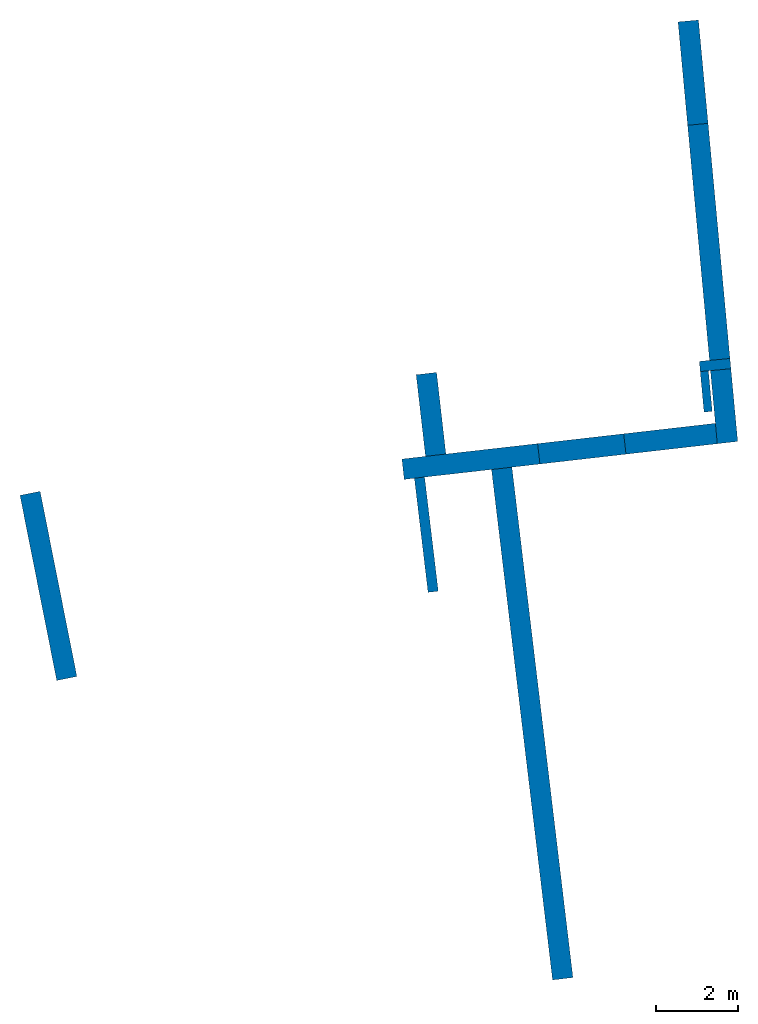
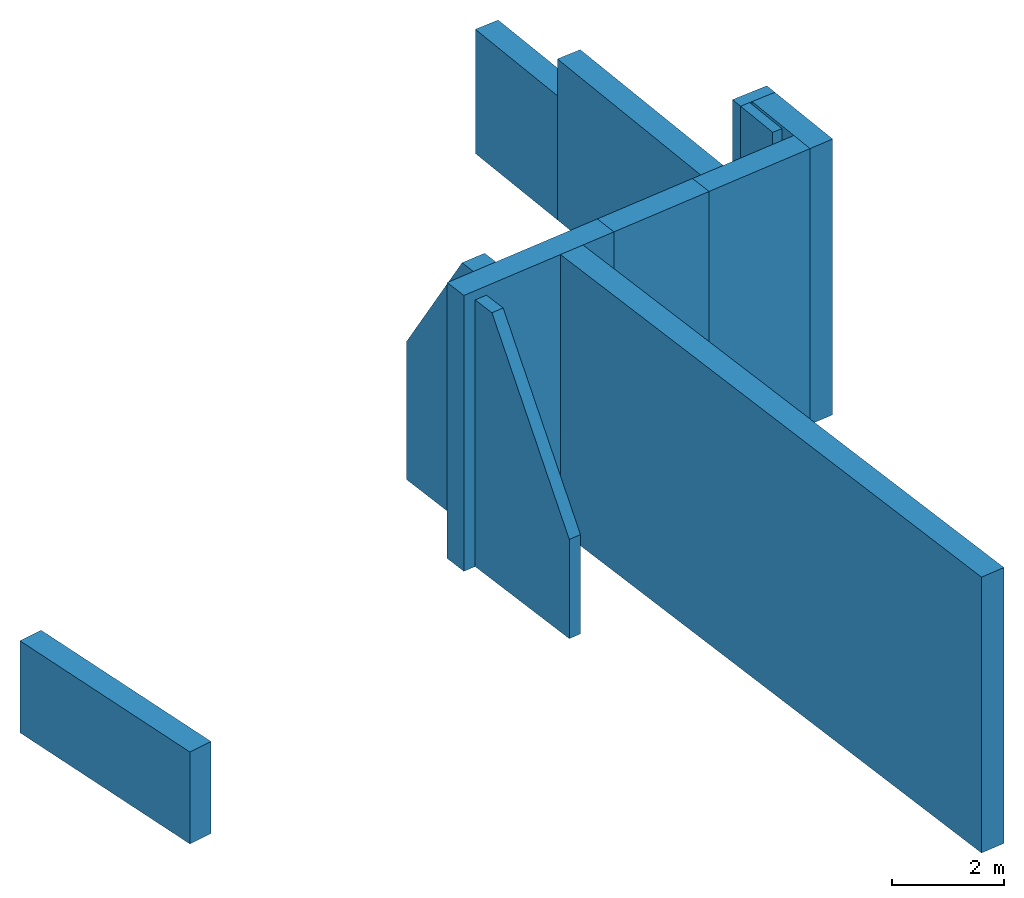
# One storey: 11 walls, 1 column, 1 opening.
"""IFC2X3 building model written with IfcOpenShell, lengths in centimetres."""

from ifc_helpers import new_model, entity, si_unit, converted_unit, derived_unit, direction, frame, frame_2d, origin, place, context, subcontext, project, spatial, polyline, rectangle, outline, extrude, clip, halfspace, faceted_brep, source, transform, mapped, material, layer, layer_set, layer_usage, type_object, type_shapes, element, save


model = new_model("IFC2X3")

# Units and contexts
model_context = context("Model", 3, precision=0.001, world=origin(), true_north=direction((0.0, 1.0)))
body_context = subcontext(model_context, "Body", "Model", "MODEL_VIEW")
ifc_project = project(units=[si_unit("LENGTHUNIT", "METRE", prefix="CENTI"), si_unit("AREAUNIT", "SQUARE_METRE"), si_unit("VOLUMEUNIT", "CUBIC_METRE"), converted_unit("PLANEANGLEUNIT", "DEGREE", entity("IfcPlaneAngleMeasure", 0.017453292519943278), si_unit("PLANEANGLEUNIT", "RADIAN"), dimensions=[0, 0, 0, 0, 0, 0, 0]), derived_unit("THERMALTRANSMITTANCEUNIT", [(si_unit("MASSUNIT", "GRAM", prefix="KILO"), 1), (si_unit("THERMODYNAMICTEMPERATUREUNIT", "KELVIN"), -1), (si_unit("TIMEUNIT", "SECOND"), -3)])], contexts=[model_context])

# Site, building, storey
site_placement = place(None, frame((0.0, 0.0, 30720.0)))
site = spatial("IfcSite", under=ifc_project, at=site_placement, Name="Default", CompositionType="ELEMENT")
building_placement = place(site_placement, origin())
building = spatial("IfcBuilding", under=site, at=building_placement, CompositionType="ELEMENT")
storey_placement = place(building_placement, frame((0.0, 0.0, -300.0)))
storey = spatial("IfcBuildingStorey", under=building, at=storey_placement, Name="R-1", CompositionType="ELEMENT", Elevation=-299.99999999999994)

# Column
ifc_material_1 = material(Name="00-Béton")
column_type = type_object("IfcColumnType", Name="LBTS-25-poteau_rectangulaire-ESS-OLL:Pt.001", PredefinedType="COLUMN", material=ifc_material_1)
shared_shape = source(origin(), body_context, "Body", "SweptSolid", [
    extrude(rectangle(XDim=24.999999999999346, YDim=75.00000000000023, at=frame_2d((-1.78571428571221, 6.068281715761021), x_axis=(1.0, 0.0))), frame((28735.879390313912, -13261.973703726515, -300.0), z_axis=(0.0, 0.0, 1.0), x_axis=(0.09266489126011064, -0.9956973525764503, 0.0)), (0.0, 0.0, 1.0), 599.9999999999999),
])
type_shapes(column_type, [shared_shape])
column_placement = place(storey_placement, frame((0.0, 0.0, 300.0)))
element("IfcColumn", 1, at=column_placement, inside=storey, type_object=column_type, material=ifc_material_1, Name="LBTS-25-poteau_rectangulaire-ESS-OLL:Pt.001", context=body_context, shape_type="MappedRepresentation", body=[
    mapped(shared_shape, transform((0.0, 0.0, 0.0), scale=1.0)),
])

# Walls
ifc_layer_1 = layer(ifc_material_1, 20.0)
ifc_layer_set_1 = layer_set([ifc_layer_1], Name="Mur de base:Voile B.A. 20")
ifc_layer_usage_1 = layer_usage(ifc_layer_set_1, "AXIS2", "NEGATIVE", 10.0)
wall_type_1 = type_object("IfcWallType", Name="Mur de base:Voile B.A. 20", PredefinedType="STANDARD", material=ifc_layer_set_1)
wall_1_placement = place(storey_placement, frame((28724.72140419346, -13373.361532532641, 0.0), z_axis=(0.0, 0.0, 1.0), x_axis=(-0.0926648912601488, 0.9956973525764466, 0.0)))
element("IfcWallStandardCase", 2, at=wall_1_placement, inside=storey, type_object=wall_type_1, material=ifc_layer_usage_1, Name="Mur de base:Voile B.A. 20", context=body_context, shape_type="SweptSolid", body=[
    extrude(rectangle(XDim=99.16032696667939, YDim=20.00000000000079, at=frame_2d((49.580163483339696, -1.0658141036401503e-14), x_axis=(-1.0, 0.0))), origin(), (0.0, 0.0, 1.0), 600.0),
])
ifc_material_2 = material(Name="04-Existant")
ifc_layer_2 = layer(ifc_material_2, 50.0)
ifc_layer_set_2 = layer_set([ifc_layer_2], Name="Mur de base:Existant 50")
ifc_layer_usage_2 = layer_usage(ifc_layer_set_2, "AXIS2", "NEGATIVE", 25.0)
wall_type_2 = type_object("IfcWallType", Name="Mur de base:Existant 50", PredefinedType="STANDARD", material=ifc_layer_set_2)
wall_2_placement = place(storey_placement, frame((28676.34467025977, -12421.768221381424, 0.0), z_axis=(0.0, 0.0, 1.0), x_axis=(0.0926652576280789, -0.9956973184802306, 0.0)))
element("IfcWallStandardCase", 3, at=wall_2_placement, inside=storey, type_object=wall_type_2, material=ifc_layer_usage_2, Name="Mur de base:Existant 50", context=body_context, shape_type="SweptSolid", body=[
    extrude(rectangle(XDim=252.82499744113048, YDim=50.00000000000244, at=frame_2d((126.41249872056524, -7.229772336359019e-13), x_axis=(-1.0, 0.0))), origin(), (0.0, 0.0, 1.0), 269.99999999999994),
])
ifc_layer_usage_3 = layer_usage(ifc_layer_set_2, "AXIS2", "NEGATIVE", 25.0)
wall_3_placement = place(storey_placement, frame((28755.373249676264, -13270.93807852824, 0.0), z_axis=(0.0, 0.0, 1.0), x_axis=(0.09295048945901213, -0.9956707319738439, 0.0)))
element("IfcWallStandardCase", 4, at=wall_3_placement, inside=storey, type_object=wall_type_2, material=ifc_layer_usage_3, Name="Mur de base:Existant 50", context=body_context, shape_type="SweptSolid", body=[
    extrude(outline(polyline([(178.83553113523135, -25.0), (177.7984778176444, 25.0), (0.0, 25.0), (0.0, -25.0), (128.82477749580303, -25.0), (178.83553113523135, -25.0)])), origin(), (0.0, 0.0, 1.0), 600.0),
])
ifc_layer_usage_4 = layer_usage(ifc_layer_set_2, "AXIS2", "NEGATIVE", 25.0)
wall_4_placement = place(storey_placement, frame((28745.295240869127, -13426.367130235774, 0.0), z_axis=(0.0, 0.0, 1.0), x_axis=(-0.9935291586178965, -0.11357733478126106, 0.0)))
element("IfcWallStandardCase", 5, at=wall_4_placement, inside=storey, type_object=wall_type_2, material=ifc_layer_usage_4, Name="Mur de base:Existant 50", context=body_context, shape_type="SweptSolid", body=[
    extrude(outline(polyline([(224.80617165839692, -25.0), (224.80617165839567, 25.0), (1.0370533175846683, 25.0), (0.0, -25.0), (224.80617165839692, -25.0)])), origin(), (0.0, 0.0, 1.0), 600.0),
])
ifc_layer_usage_5 = layer_usage(ifc_layer_set_2, "AXIS2", "NEGATIVE", 25.0)
wall_5_placement = place(storey_placement, frame((28312.349523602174, -13475.860204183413, 0.0), z_axis=(0.0, 0.0, 1.0), x_axis=(-0.9936242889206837, -0.11274206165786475, 0.0)))
element("IfcWallStandardCase", 6, at=wall_5_placement, inside=storey, type_object=wall_type_2, material=ifc_layer_usage_5, Name="Mur de base:Existant 50", context=body_context, shape_type="SweptSolid", body=[
    extrude(rectangle(XDim=332.5919961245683, YDim=49.99999999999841, at=frame_2d((166.29599806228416, -5.5067062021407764e-14), x_axis=(-1.0, 0.0))), origin(), (0.0, 0.0, 1.0), 600.0),
])
ifc_layer_usage_6 = layer_usage(ifc_layer_set_2, "AXIS2", "POSITIVE", -25.0)
wall_6_placement = place(storey_placement, frame((28312.34952259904, -13475.860195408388, 0.0), z_axis=(0.0, 0.0, 1.0), x_axis=(0.9935291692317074, 0.11357724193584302, 0.0)))
element("IfcWallStandardCase", 7, at=wall_6_placement, inside=storey, type_object=wall_type_2, material=ifc_layer_usage_6, Name="Mur de base:Existant 50", context=body_context, shape_type="SweptSolid", body=[
    extrude(rectangle(XDim=210.95931398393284, YDim=50.00000000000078, at=frame_2d((105.47965699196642, 1.687538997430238e-13), x_axis=(-1.0, 0.0))), origin(), (0.0, 0.0, 1.0), 600.0),
])
ifc_layer_usage_7 = layer_usage(ifc_layer_set_2, "AXIS2", "NEGATIVE", 25.0)
wall_7_placement = place(storey_placement, frame((28222.135913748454, -13511.104833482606, 0.0), z_axis=(0.0, 0.0, 1.0), x_axis=(0.11873945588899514, -0.9929254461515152, 0.0)))
element("IfcWallStandardCase", 8, at=wall_7_placement, inside=storey, type_object=wall_type_2, material=ifc_layer_usage_7, Name="Mur de base:Existant 50", context=body_context, shape_type="SweptSolid", body=[
    extrude(outline(polyline([(1251.896743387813, -25.0), (1251.8967433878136, 25.0), (0.3019027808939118, 25.0), (0.0, -25.0), (1251.896743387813, -25.0)])), origin(), (0.0, 0.0, 1.0), 600.0),
])
ifc_layer_usage_8 = layer_usage(ifc_layer_set_2, "AXIS2", "NEGATIVE", 25.0)
wall_8_placement = place(storey_placement, frame((27163.125310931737, -14022.846650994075, 0.0), z_axis=(0.0, 0.0, 1.0), x_axis=(-0.1946979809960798, 0.9808632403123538, 0.0)))
element("IfcWallStandardCase", 9, at=wall_8_placement, inside=storey, type_object=wall_type_2, material=ifc_layer_usage_8, Name="Mur de base:Existant 50", context=body_context, shape_type="SweptSolid", body=[
    extrude(rectangle(XDim=459.5437029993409, YDim=50.000000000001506, at=frame_2d((229.77185149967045, 9.059419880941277e-13), x_axis=(-1.0, 0.0))), origin(), (0.0, 0.0, 1.0), 199.99999999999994),
])

# Wall, opening
ifc_layer_usage_9 = layer_usage(ifc_layer_set_2, "AXIS2", "NEGATIVE", 25.0)
wall_9_placement = place(storey_placement, frame((28699.77276378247, -12673.505393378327, 0.0), z_axis=(0.0, 0.0, 1.0), x_axis=(0.0926652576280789, -0.9956973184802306, 0.0)))
wall_9 = element("IfcWallStandardCase", 10, at=wall_9_placement, inside=storey, type_object=wall_type_2, material=ifc_layer_usage_9, Name="Mur de base:Existant 50", context=body_context, shape_type="SweptSolid", body=[
    extrude(rectangle(XDim=600.0143559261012, YDim=50.00000000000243, at=frame_2d((300.0071779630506, 5.613287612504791e-13), x_axis=(-1.0, 0.0))), origin(), (0.0, 0.0, 1.0), 349.99999999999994),
])
opening_placement = place(storey_placement, frame((28699.77276378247, -12673.505393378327, 0.0), z_axis=(0.0, 0.0, 1.0), x_axis=(0.0926652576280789, -0.9956973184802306, 0.0)))
element("IfcOpeningElement", 11, at=opening_placement, cuts=wall_9, Name="Mur de base:Existant 50:1", ObjectType="Opening", context=body_context, shape_type="SweptSolid", body=[
    extrude(rectangle(XDim=349.99999999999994, YDim=50.000000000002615, at=frame_2d((0.0, -7.993605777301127e-14), x_axis=(1.0, 0.0))), frame((574.9964410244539, 0.0, 175.0), z_axis=(1.0, -3.679510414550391e-07, 0.0), x_axis=(0.0, 0.0, -1.0)), (0.0, 0.0, 1.0), 25.00009884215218),
])

# Walls
ifc_layer_3 = layer(ifc_material_2, 25.0)
ifc_layer_set_3 = layer_set([ifc_layer_3], Name="Mur de base:Existant 25")
ifc_layer_usage_10 = layer_usage(ifc_layer_set_3, "AXIS2", "NEGATIVE", 12.5)
wall_type_3 = type_object("IfcWallType", Name="Mur de base:Existant 25", PredefinedType="STANDARD", material=ifc_layer_set_3)
wall_10_placement = place(storey_placement, frame((28021.931293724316, -13533.74518914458, 0.0), z_axis=(0.0, 0.0, 1.0), x_axis=(0.11873945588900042, -0.9929254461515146, 0.0)))
element("IfcWallStandardCase", 12, at=wall_10_placement, inside=storey, type_object=wall_type_3, material=ifc_layer_usage_10, Name="Mur de base:Existant 25", context=body_context, shape_type="Clipping", body=[
    clip(extrude(rectangle(XDim=279.9999999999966, YDim=24.999999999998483, at=frame_2d((139.9999999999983, 1.056932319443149e-13), x_axis=(-1.0, 0.0))), origin(), (0.0, 0.0, 1.0), 580.0), halfspace(frame((50.10526315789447, -12.499999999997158, 580.0), z_axis=(0.8454889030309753, 0.0, 0.5339929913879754), x_axis=(0.0, 1.0, 0.0)), False)),
])
ifc_layer_4 = layer(ifc_material_1, 50.0)
ifc_layer_set_4 = layer_set([ifc_layer_4], Name="Mur de base:Voile B.A. 50")
wall_type_4 = type_object("IfcWallType", Name="Mur de base:Voile B.A. 50", PredefinedType="STANDARD", material=ifc_layer_set_4)
wall_11_placement = place(storey_placement, frame((28061.410119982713, -13479.195591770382, 35.0), z_axis=(0.0, 0.0, 1.0), x_axis=(-0.11364408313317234, 0.9935215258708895, 0.0)))
element("IfcWall", 13, at=wall_11_placement, inside=storey, type_object=wall_type_4, Name="Mur de base:Voile B.A. 50", context=body_context, shape_type="Brep", body=[
    faceted_brep([(0.0, -25.0, 0.0), (200.06803034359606, -25.0, 0.0), (200.0680303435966, -25.0, 300.0), (33.77531490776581, -25.0, 565.0), (0.0, -25.0, 565.0), (0.04539282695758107, 25.0, 0.0), (0.045392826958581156, 25.0, 565.0), (33.77531490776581, 25.0, 565.0), (200.06803034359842, 25.0, 300.0), (200.06803034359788, 25.0, 0.0)], [[[0, 1, 2, 3, 4]], [[5, 6, 7, 8, 9]], [[0, 4, 6, 5]], [[1, 0, 5, 9]], [[2, 1, 9, 8]], [[4, 3, 7, 6]], [[3, 2, 8, 7]]]),
])

save(model, "model.ifc")
